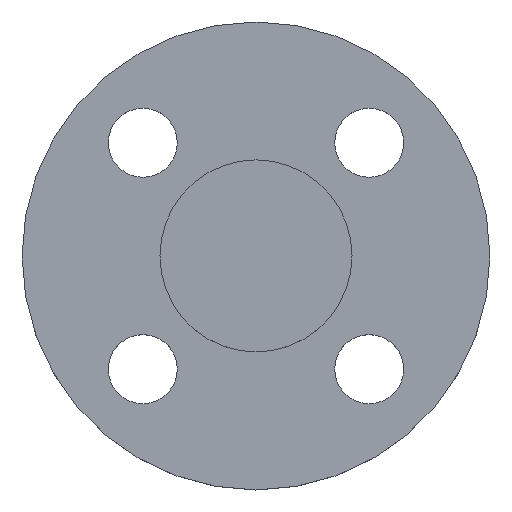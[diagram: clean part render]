
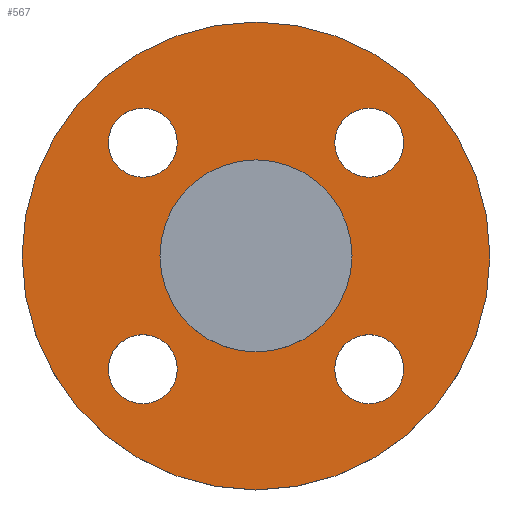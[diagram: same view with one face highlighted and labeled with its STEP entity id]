
A CAD part, top view. The second image highlights one B-rep face of the part: STEP entity #567.
In plain terms, the highlighted planar face has unit normal (0, 0, 1).
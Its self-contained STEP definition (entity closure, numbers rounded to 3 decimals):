
#1 = EDGE_CURVE ( 'NONE', #436, #402, #397, .T. ) ;
#6 = EDGE_CURVE ( 'NONE', #402, #436, #640, .T. ) ;
#7 = AXIS2_PLACEMENT_3D ( 'NONE', #156, #389, #385 ) ;
#13 = EDGE_CURVE ( 'NONE', #569, #572, #14, .T. ) ;
#14 = CIRCLE ( 'NONE', #59, 7. ) ;
#25 = EDGE_CURVE ( 'NONE', #572, #569, #154, .T. ) ;
#31 = EDGE_CURVE ( 'NONE', #403, #415, #562, .T. ) ;
#40 = AXIS2_PLACEMENT_3D ( 'NONE', #282, #286, #290 ) ;
#48 = AXIS2_PLACEMENT_3D ( 'NONE', #229, #230, #231 ) ;
#59 = AXIS2_PLACEMENT_3D ( 'NONE', #158, #617, #618 ) ;
#91 = AXIS2_PLACEMENT_3D ( 'NONE', #643, #644, #645 ) ;
#130 = CARTESIAN_POINT ( 'NONE',  ( -19.5, 0., -4.5 ) ) ;
#131 = CARTESIAN_POINT ( 'NONE',  ( 47.5, 0., -4.5 ) ) ;
#144 = CARTESIAN_POINT ( 'NONE',  ( -15.981, -22.981, -4.5 ) ) ;
#146 = CARTESIAN_POINT ( 'NONE',  ( -29.981, -22.981, -4.5 ) ) ;
#147 = DIRECTION ( 'NONE',  ( 1., 0., 0. ) ) ;
#148 = DIRECTION ( 'NONE',  ( 0., 0., 1. ) ) ;
#149 = CARTESIAN_POINT ( 'NONE',  ( 19.5, 0., -4.5 ) ) ;
#150 = PLANE ( 'NONE',  #187 ) ;
#154 = CIRCLE ( 'NONE', #288, 7. ) ;
#156 = CARTESIAN_POINT ( 'NONE',  ( 0., 0., -4.5 ) ) ;
#158 = CARTESIAN_POINT ( 'NONE',  ( -22.981, -22.981, -4.5 ) ) ;
#164 = CARTESIAN_POINT ( 'NONE',  ( -22.981, 22.981, -4.5 ) ) ;
#176 = CARTESIAN_POINT ( 'NONE',  ( -47.5, 0., -4.5 ) ) ;
#187 = AXIS2_PLACEMENT_3D ( 'NONE', #149, #148, #147 ) ;
#189 = AXIS2_PLACEMENT_3D ( 'NONE', #262, #263, #270 ) ;
#195 = DIRECTION ( 'NONE',  ( 0., 0., -1. ) ) ;
#199 = CARTESIAN_POINT ( 'NONE',  ( -29.981, 22.981, -4.5 ) ) ;
#200 = FACE_BOUND ( 'NONE', #601, .T. ) ;
#203 = FACE_BOUND ( 'NONE', #498, .T. ) ;
#204 = FACE_BOUND ( 'NONE', #577, .T. ) ;
#211 = CARTESIAN_POINT ( 'NONE',  ( 19.5, 0., -4.5 ) ) ;
#229 = CARTESIAN_POINT ( 'NONE',  ( -22.981, 22.981, -4.5 ) ) ;
#230 = DIRECTION ( 'NONE',  ( 0., 0., -1. ) ) ;
#231 = DIRECTION ( 'NONE',  ( 1., 0., 0. ) ) ;
#232 = CARTESIAN_POINT ( 'NONE',  ( 0., 0., -4.5 ) ) ;
#233 = DIRECTION ( 'NONE',  ( 0., 0., -1. ) ) ;
#235 = DIRECTION ( 'NONE',  ( -1., 0., 0. ) ) ;
#237 = CARTESIAN_POINT ( 'NONE',  ( 0., 0., -4.5 ) ) ;
#244 = DIRECTION ( 'NONE',  ( 0., 0., -1. ) ) ;
#245 = DIRECTION ( 'NONE',  ( -1., 0., 0. ) ) ;
#249 = AXIS2_PLACEMENT_3D ( 'NONE', #164, #195, #368 ) ;
#256 = ORIENTED_EDGE ( 'NONE', *, *, #31, .T. ) ;
#259 = CIRCLE ( 'NONE', #249, 7. ) ;
#262 = CARTESIAN_POINT ( 'NONE',  ( 22.981, -22.981, -4.5 ) ) ;
#263 = DIRECTION ( 'NONE',  ( 0., 0., -1. ) ) ;
#270 = DIRECTION ( 'NONE',  ( 1., 0., 0. ) ) ;
#276 = CIRCLE ( 'NONE', #7, 19.5 ) ;
#282 = CARTESIAN_POINT ( 'NONE',  ( 0., 0., -4.5 ) ) ;
#286 = DIRECTION ( 'NONE',  ( 0., 0., -1. ) ) ;
#287 = AXIS2_PLACEMENT_3D ( 'NONE', #232, #233, #235 ) ;
#288 = AXIS2_PLACEMENT_3D ( 'NONE', #634, #635, #636 ) ;
#289 = EDGE_CURVE ( 'NONE', #406, #561, #745, .T. ) ;
#290 = DIRECTION ( 'NONE',  ( -1., 0., 0. ) ) ;
#291 = EDGE_CURVE ( 'NONE', #597, #478, #464, .T. ) ;
#298 = EDGE_CURVE ( 'NONE', #594, #421, #422, .T. ) ;
#312 = EDGE_CURVE ( 'NONE', #415, #403, #497, .T. ) ;
#327 = EDGE_CURVE ( 'NONE', #421, #594, #354, .T. ) ;
#354 = CIRCLE ( 'NONE', #40, 47.5 ) ;
#361 = CARTESIAN_POINT ( 'NONE',  ( 15.981, 22.981, -4.5 ) ) ;
#362 = CARTESIAN_POINT ( 'NONE',  ( 29.981, -22.981, -4.5 ) ) ;
#363 = CARTESIAN_POINT ( 'NONE',  ( -15.981, 22.981, -4.5 ) ) ;
#368 = DIRECTION ( 'NONE',  ( 1., 0., 0. ) ) ;
#369 = FACE_OUTER_BOUND ( 'NONE', #534, .T. ) ;
#371 = FACE_BOUND ( 'NONE', #592, .T. ) ;
#372 = AXIS2_PLACEMENT_3D ( 'NONE', #615, #616, #676 ) ;
#375 = CARTESIAN_POINT ( 'NONE',  ( 15.981, -22.981, -4.5 ) ) ;
#380 = CARTESIAN_POINT ( 'NONE',  ( 29.981, 22.981, -4.5 ) ) ;
#385 = DIRECTION ( 'NONE',  ( -1., 0., 0. ) ) ;
#389 = DIRECTION ( 'NONE',  ( 0., 0., -1. ) ) ;
#391 = FACE_BOUND ( 'NONE', #502, .T. ) ;
#396 = AXIS2_PLACEMENT_3D ( 'NONE', #612, #613, #614 ) ;
#397 = CIRCLE ( 'NONE', #396, 7. ) ;
#401 = ORIENTED_EDGE ( 'NONE', *, *, #289, .T. ) ;
#402 = VERTEX_POINT ( 'NONE', #361 ) ;
#403 = VERTEX_POINT ( 'NONE', #362 ) ;
#406 = VERTEX_POINT ( 'NONE', #363 ) ;
#412 = AXIS2_PLACEMENT_3D ( 'NONE', #237, #244, #245 ) ;
#415 = VERTEX_POINT ( 'NONE', #375 ) ;
#421 = VERTEX_POINT ( 'NONE', #176 ) ;
#422 = CIRCLE ( 'NONE', #412, 47.5 ) ;
#432 = EDGE_CURVE ( 'NONE', #478, #597, #276, .T. ) ;
#436 = VERTEX_POINT ( 'NONE', #380 ) ;
#464 = CIRCLE ( 'NONE', #287, 19.5 ) ;
#478 = VERTEX_POINT ( 'NONE', #211 ) ;
#487 = ORIENTED_EDGE ( 'NONE', *, *, #312, .T. ) ;
#488 = EDGE_CURVE ( 'NONE', #561, #406, #259, .T. ) ;
#489 = ORIENTED_EDGE ( 'NONE', *, *, #25, .T. ) ;
#490 = ORIENTED_EDGE ( 'NONE', *, *, #13, .T. ) ;
#491 = ORIENTED_EDGE ( 'NONE', *, *, #1, .T. ) ;
#492 = ORIENTED_EDGE ( 'NONE', *, *, #6, .T. ) ;
#493 = ORIENTED_EDGE ( 'NONE', *, *, #291, .T. ) ;
#494 = ORIENTED_EDGE ( 'NONE', *, *, #432, .T. ) ;
#496 = ORIENTED_EDGE ( 'NONE', *, *, #298, .F. ) ;
#497 = CIRCLE ( 'NONE', #189, 7. ) ;
#498 = EDGE_LOOP ( 'NONE', ( #401, #590 ) ) ;
#501 = ORIENTED_EDGE ( 'NONE', *, *, #327, .F. ) ;
#502 = EDGE_LOOP ( 'NONE', ( #493, #494 ) ) ;
#534 = EDGE_LOOP ( 'NONE', ( #496, #501 ) ) ;
#561 = VERTEX_POINT ( 'NONE', #199 ) ;
#562 = CIRCLE ( 'NONE', #91, 7. ) ;
#567 = ADVANCED_FACE ( 'NONE', ( #200, #204, #203, #371, #391, #369 ), #150, .T. ) ;
#569 = VERTEX_POINT ( 'NONE', #146 ) ;
#572 = VERTEX_POINT ( 'NONE', #144 ) ;
#577 = EDGE_LOOP ( 'NONE', ( #489, #490 ) ) ;
#590 = ORIENTED_EDGE ( 'NONE', *, *, #488, .T. ) ;
#592 = EDGE_LOOP ( 'NONE', ( #491, #492 ) ) ;
#594 = VERTEX_POINT ( 'NONE', #131 ) ;
#597 = VERTEX_POINT ( 'NONE', #130 ) ;
#601 = EDGE_LOOP ( 'NONE', ( #256, #487 ) ) ;
#612 = CARTESIAN_POINT ( 'NONE',  ( 22.981, 22.981, -4.5 ) ) ;
#613 = DIRECTION ( 'NONE',  ( 0., 0., -1. ) ) ;
#614 = DIRECTION ( 'NONE',  ( 1., 0., 0. ) ) ;
#615 = CARTESIAN_POINT ( 'NONE',  ( 22.981, 22.981, -4.5 ) ) ;
#616 = DIRECTION ( 'NONE',  ( 0., 0., -1. ) ) ;
#617 = DIRECTION ( 'NONE',  ( 0., 0., -1. ) ) ;
#618 = DIRECTION ( 'NONE',  ( 1., 0., 0. ) ) ;
#634 = CARTESIAN_POINT ( 'NONE',  ( -22.981, -22.981, -4.5 ) ) ;
#635 = DIRECTION ( 'NONE',  ( 0., 0., -1. ) ) ;
#636 = DIRECTION ( 'NONE',  ( 1., 0., 0. ) ) ;
#640 = CIRCLE ( 'NONE', #372, 7. ) ;
#643 = CARTESIAN_POINT ( 'NONE',  ( 22.981, -22.981, -4.5 ) ) ;
#644 = DIRECTION ( 'NONE',  ( 0., 0., -1. ) ) ;
#645 = DIRECTION ( 'NONE',  ( 1., 0., 0. ) ) ;
#676 = DIRECTION ( 'NONE',  ( 1., 0., 0. ) ) ;
#745 = CIRCLE ( 'NONE', #48, 7. ) ;
